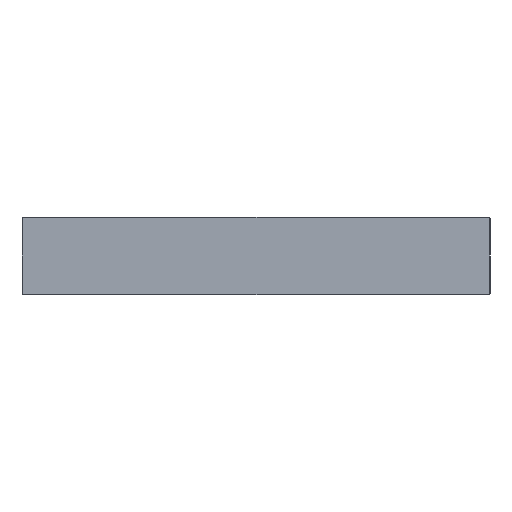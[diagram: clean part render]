
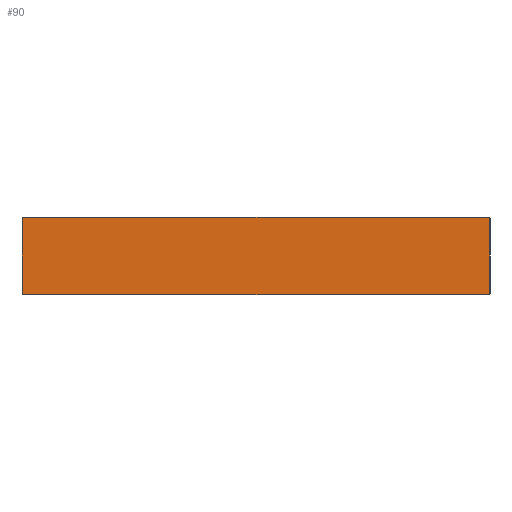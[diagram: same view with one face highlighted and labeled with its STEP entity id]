
A CAD part, left-side view. The second image highlights one B-rep face of the part: STEP entity #90.
In plain terms, the highlighted planar face has unit normal (-1, 0, 0).
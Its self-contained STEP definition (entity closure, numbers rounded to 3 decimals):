
#9 = ORIENTED_EDGE ( 'NONE', *, *, #176, .F. ) ;
#13 = CARTESIAN_POINT ( 'NONE',  ( 0., 60., 0. ) ) ;
#17 = DIRECTION ( 'NONE',  ( 0., 0., 1. ) ) ;
#21 = CARTESIAN_POINT ( 'NONE',  ( 0., 0., 9.75 ) ) ;
#27 = DIRECTION ( 'NONE',  ( 1., 0., 0. ) ) ;
#31 = CARTESIAN_POINT ( 'NONE',  ( 0., 60., 9.75 ) ) ;
#34 = EDGE_CURVE ( 'NONE', #146, #197, #142, .T. ) ;
#35 = EDGE_CURVE ( 'NONE', #188, #191, #138, .T. ) ;
#67 = DIRECTION ( 'NONE',  ( 0., 0., 1. ) ) ;
#84 = CIRCLE ( 'NONE', #235, 0.25 ) ;
#90 = ADVANCED_FACE ( 'NONE', ( #129 ), #317, .F. ) ;
#96 = EDGE_CURVE ( 'NONE', #202, #209, #117, .T. ) ;
#97 = EDGE_CURVE ( 'NONE', #197, #188, #118, .T. ) ;
#99 = VECTOR ( 'NONE', #295, 1000. ) ;
#100 = LINE ( 'NONE', #319, #99 ) ;
#109 = CIRCLE ( 'NONE', #264, 0.25 ) ;
#112 = CIRCLE ( 'NONE', #282, 0.25 ) ;
#117 = LINE ( 'NONE', #13, #124 ) ;
#118 = CIRCLE ( 'NONE', #325, 0.25 ) ;
#124 = VECTOR ( 'NONE', #17, 1000. ) ;
#128 = VECTOR ( 'NONE', #249, 1000. ) ;
#129 = FACE_OUTER_BOUND ( 'NONE', #156, .T. ) ;
#130 = VECTOR ( 'NONE', #274, 1000. ) ;
#138 = LINE ( 'NONE', #296, #128 ) ;
#142 = LINE ( 'NONE', #280, #130 ) ;
#146 = VERTEX_POINT ( 'NONE', #21 ) ;
#150 = CARTESIAN_POINT ( 'NONE',  ( 0., 0.25, 10. ) ) ;
#155 = DIRECTION ( 'NONE',  ( 1., 0., 0. ) ) ;
#156 = EDGE_LOOP ( 'NONE', ( #9, #164, #254, #220, #174, #327, #233, #194 ) ) ;
#163 = EDGE_CURVE ( 'NONE', #200, #146, #112, .T. ) ;
#164 = ORIENTED_EDGE ( 'NONE', *, *, #35, .F. ) ;
#174 = ORIENTED_EDGE ( 'NONE', *, *, #163, .F. ) ;
#175 = DIRECTION ( 'NONE',  ( 0., 0., 1. ) ) ;
#176 = EDGE_CURVE ( 'NONE', #191, #202, #109, .T. ) ;
#183 = VERTEX_POINT ( 'NONE', #336 ) ;
#188 = VERTEX_POINT ( 'NONE', #189 ) ;
#189 = CARTESIAN_POINT ( 'NONE',  ( 0., 0.25, 0. ) ) ;
#191 = VERTEX_POINT ( 'NONE', #196 ) ;
#192 = CARTESIAN_POINT ( 'NONE',  ( 0., 0., 0.25 ) ) ;
#194 = ORIENTED_EDGE ( 'NONE', *, *, #96, .F. ) ;
#196 = CARTESIAN_POINT ( 'NONE',  ( 0., 59.75, 0. ) ) ;
#197 = VERTEX_POINT ( 'NONE', #192 ) ;
#200 = VERTEX_POINT ( 'NONE', #150 ) ;
#201 = DIRECTION ( 'NONE',  ( 1., 0., 0. ) ) ;
#202 = VERTEX_POINT ( 'NONE', #227 ) ;
#209 = VERTEX_POINT ( 'NONE', #31 ) ;
#211 = EDGE_CURVE ( 'NONE', #183, #200, #100, .T. ) ;
#220 = ORIENTED_EDGE ( 'NONE', *, *, #34, .F. ) ;
#227 = CARTESIAN_POINT ( 'NONE',  ( 0., 60., 0.25 ) ) ;
#233 = ORIENTED_EDGE ( 'NONE', *, *, #248, .F. ) ;
#235 = AXIS2_PLACEMENT_3D ( 'NONE', #250, #27, #275 ) ;
#248 = EDGE_CURVE ( 'NONE', #209, #183, #84, .T. ) ;
#249 = DIRECTION ( 'NONE',  ( 0., 1., 0. ) ) ;
#250 = CARTESIAN_POINT ( 'NONE',  ( 0., 59.75, 9.75 ) ) ;
#254 = ORIENTED_EDGE ( 'NONE', *, *, #97, .F. ) ;
#257 = DIRECTION ( 'NONE',  ( 0., 0., -1. ) ) ;
#261 = CARTESIAN_POINT ( 'NONE',  ( 0., 0.25, 0.25 ) ) ;
#264 = AXIS2_PLACEMENT_3D ( 'NONE', #335, #155, #281 ) ;
#274 = DIRECTION ( 'NONE',  ( 0., 0., -1. ) ) ;
#275 = DIRECTION ( 'NONE',  ( 0., 0., 1. ) ) ;
#279 = DIRECTION ( 'NONE',  ( 1., 0., 0. ) ) ;
#280 = CARTESIAN_POINT ( 'NONE',  ( 0., 0., 0. ) ) ;
#281 = DIRECTION ( 'NONE',  ( 0., 0., 1. ) ) ;
#282 = AXIS2_PLACEMENT_3D ( 'NONE', #300, #284, #175 ) ;
#284 = DIRECTION ( 'NONE',  ( 1., 0., 0. ) ) ;
#295 = DIRECTION ( 'NONE',  ( 0., -1., 0. ) ) ;
#296 = CARTESIAN_POINT ( 'NONE',  ( 0., 0., 0. ) ) ;
#297 = AXIS2_PLACEMENT_3D ( 'NONE', #307, #279, #257 ) ;
#300 = CARTESIAN_POINT ( 'NONE',  ( 0., 0.25, 9.75 ) ) ;
#307 = CARTESIAN_POINT ( 'NONE',  ( 0., 0., 0. ) ) ;
#317 = PLANE ( 'NONE',  #297 ) ;
#319 = CARTESIAN_POINT ( 'NONE',  ( 0., 60., 10. ) ) ;
#325 = AXIS2_PLACEMENT_3D ( 'NONE', #261, #201, #67 ) ;
#327 = ORIENTED_EDGE ( 'NONE', *, *, #211, .F. ) ;
#335 = CARTESIAN_POINT ( 'NONE',  ( 0., 59.75, 0.25 ) ) ;
#336 = CARTESIAN_POINT ( 'NONE',  ( 0., 59.75, 10. ) ) ;
